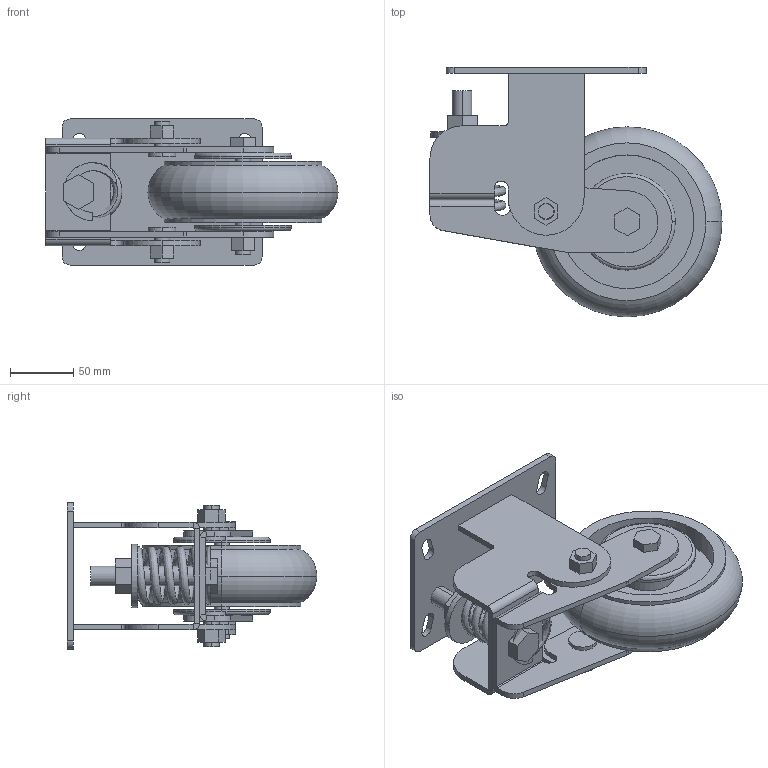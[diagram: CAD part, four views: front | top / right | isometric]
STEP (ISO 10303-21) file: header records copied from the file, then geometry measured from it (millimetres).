
FILE_DESCRIPTION (( 'STEP AP214' ), '1' );
FILE_NAME ('7.75in_1300lbs_Suspension Caster - Rigid.STEP', '2025-06-10T16:08:03', ( '' ), ( '' ), 'SwSTEP 2.0', 'SolidWorks 2023', '' );
FILE_SCHEMA (( 'AUTOMOTIVE_DESIGN' ));
Length unit declared in the file: inch
Products named in the file (1): 7.75in_1300lbs_Suspension Caster - Rigid
Bounding box: 230.33 x 196.85 x 115.14 mm (x, y, z)
Volume: 883210.8 mm3; surface area: 292203.8 mm2
Topology: 16 solids, 16 shells, 257 faces, 605 edges, 390 vertices
Faces by surface type: plane 138, cylinder 109, torus 8, bspline 2
Entity records: 10729 total; most frequent: CARTESIAN_POINT 4333, DIRECTION 1349, ORIENTED_EDGE 1210, EDGE_CURVE 605, AXIS2_PLACEMENT_3D 494, VERTEX_POINT 390, LINE 361, VECTOR 361
